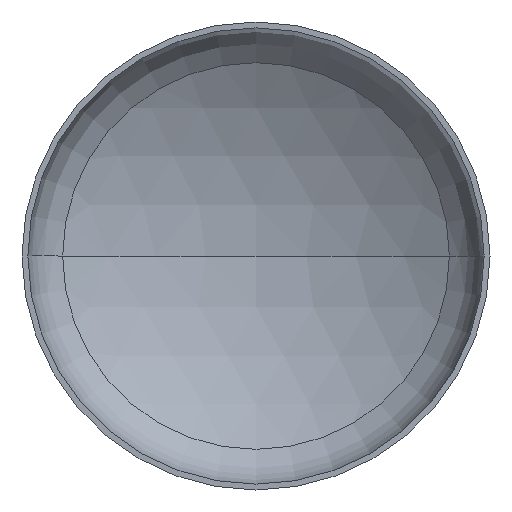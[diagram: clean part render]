
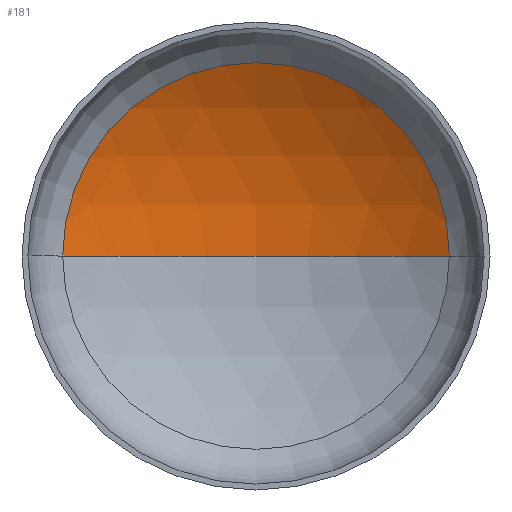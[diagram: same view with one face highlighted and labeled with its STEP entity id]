
A CAD part, front view. The second image highlights one B-rep face of the part: STEP entity #181.
In plain terms, the highlighted spherical face has radius 3200 mm.
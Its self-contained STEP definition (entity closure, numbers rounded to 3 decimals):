
#1 = CARTESIAN_POINT ( 'NONE',  ( 0., -2063.594, 0. ) ) ;
#7 = AXIS2_PLACEMENT_3D ( 'NONE', #312, #102, #143 ) ;
#12 = EDGE_LOOP ( 'NONE', ( #46, #352, #35 ) ) ;
#25 = CARTESIAN_POINT ( 'NONE',  ( 0., 1136.406, 0. ) ) ;
#31 = AXIS2_PLACEMENT_3D ( 'NONE', #210, #195, #281 ) ;
#35 = ORIENTED_EDGE ( 'NONE', *, *, #100, .T. ) ;
#45 = AXIS2_PLACEMENT_3D ( 'NONE', #1, #173, #241 ) ;
#46 = ORIENTED_EDGE ( 'NONE', *, *, #353, .F. ) ;
#48 = AXIS2_PLACEMENT_3D ( 'NONE', #188, #190, #387 ) ;
#100 = EDGE_CURVE ( 'NONE', #107, #125, #324, .T. ) ;
#101 = EDGE_CURVE ( 'NONE', #113, #107, #377, .T. ) ;
#102 = DIRECTION ( 'NONE',  ( 0., 0., 1. ) ) ;
#107 = VERTEX_POINT ( 'NONE', #378 ) ;
#113 = VERTEX_POINT ( 'NONE', #25 ) ;
#125 = VERTEX_POINT ( 'NONE', #364 ) ;
#143 = DIRECTION ( 'NONE',  ( 1., 0., 0. ) ) ;
#173 = DIRECTION ( 'NONE',  ( 0., 0., -1. ) ) ;
#181 = ADVANCED_FACE ( 'NONE', ( #371 ), #244, .F. ) ;
#188 = CARTESIAN_POINT ( 'NONE',  ( 0., 676.639, 0. ) ) ;
#190 = DIRECTION ( 'NONE',  ( 0., -1., 0. ) ) ;
#195 = DIRECTION ( 'NONE',  ( 0., 0., -1. ) ) ;
#210 = CARTESIAN_POINT ( 'NONE',  ( 0., -2063.594, 0. ) ) ;
#241 = DIRECTION ( 'NONE',  ( -1., 0., 0. ) ) ;
#244 = SPHERICAL_SURFACE ( 'NONE', #31, 3200. ) ;
#275 = CIRCLE ( 'NONE', #7, 3200. ) ;
#281 = DIRECTION ( 'NONE',  ( -1., 0., 0. ) ) ;
#312 = CARTESIAN_POINT ( 'NONE',  ( 0., -2063.594, 0. ) ) ;
#324 = CIRCLE ( 'NONE', #48, 1652.611 ) ;
#352 = ORIENTED_EDGE ( 'NONE', *, *, #101, .T. ) ;
#353 = EDGE_CURVE ( 'NONE', #113, #125, #275, .T. ) ;
#364 = CARTESIAN_POINT ( 'NONE',  ( -1652.611, 676.639, 0. ) ) ;
#371 = FACE_OUTER_BOUND ( 'NONE', #12, .T. ) ;
#377 = CIRCLE ( 'NONE', #45, 3200. ) ;
#378 = CARTESIAN_POINT ( 'NONE',  ( 1652.611, 676.639, 0. ) ) ;
#387 = DIRECTION ( 'NONE',  ( 1., 0., 0. ) ) ;
